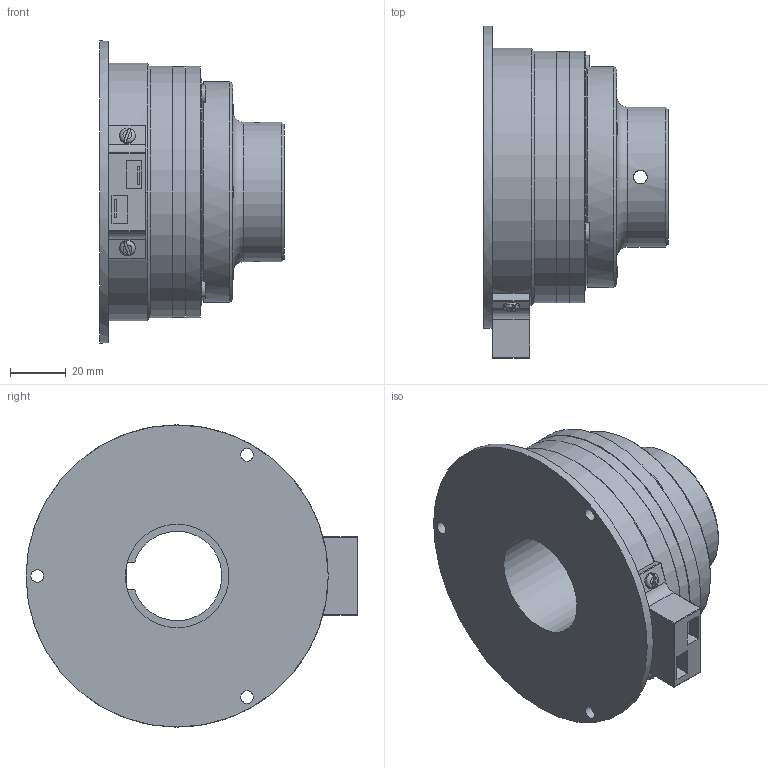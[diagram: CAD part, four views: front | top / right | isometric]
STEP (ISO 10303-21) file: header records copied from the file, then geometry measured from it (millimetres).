
FILE_DESCRIPTION(/* description */ (''),/* implementation_level */ '2;1');
FILE_NAME(/* name */ 'X:\INVENTOR\DISEGNI\08_Freni_Friz_Elettmag_Monodisco\08_28 EMFL_DF\EMFL_DF STEP\08_28_090_12 EMFL090_DF-C-ME_S@STEP.stp',/* time_stamp */ '2018-04-23T10:43:17+02:00',/* author */ ('stefano'),/* organization */ (''),/* preprocessor_version */ 'ST-DEVELOPER v17',/* originating_system */ 'Autodesk Inventor 2018',/* authorisation */ '');
FILE_SCHEMA (('AUTOMOTIVE_DESIGN { 1 0 10303 214 3 1 1 }'));
Length unit declared in the file: millimetre
Products named in the file (1): 08_28_090_12 EMFL090_DF-C-ME - Spina_Substitute_1
Bounding box: 66 x 118.65 x 108 mm (x, y, z)
Volume: 216844.2 mm3; surface area: 73279.3 mm2
Topology: 2 solids, 2 shells, 411 faces, 1119 edges, 709 vertices
Faces by surface type: cylinder 199, plane 134, torus 32, sphere 24, cone 22
Full cylindrical faces by diameter (mm): 1.5 x3, 3 x2, 4.5 x3, 4.917 x2, 5 x3, 5.1 x6, 5.6 x2, 6 x1, 7 x3, 8 x3, 9.5 x3, 37 x2, 50 x1, 54 x1, 60 x2, 76 x2, 79 x1, 80 x1, 89.8 x1, 90 x2, 108 x1
Entity records: 13898 total; most frequent: CARTESIAN_POINT 2603, DIRECTION 2497, ORIENTED_EDGE 2186, EDGE_CURVE 1093, AXIS2_PLACEMENT_3D 1044, VERTEX_POINT 709, CIRCLE 632, EDGE_LOOP 488
